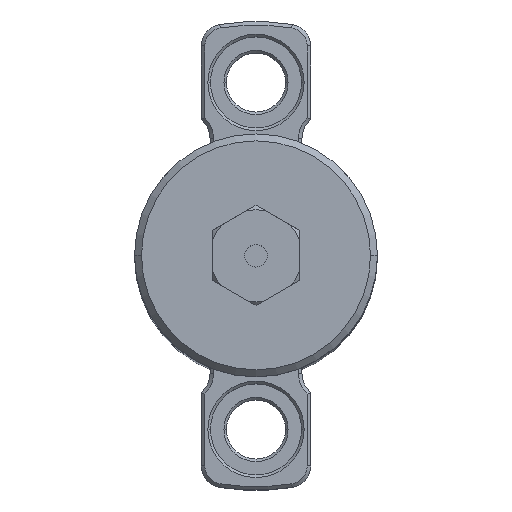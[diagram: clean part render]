
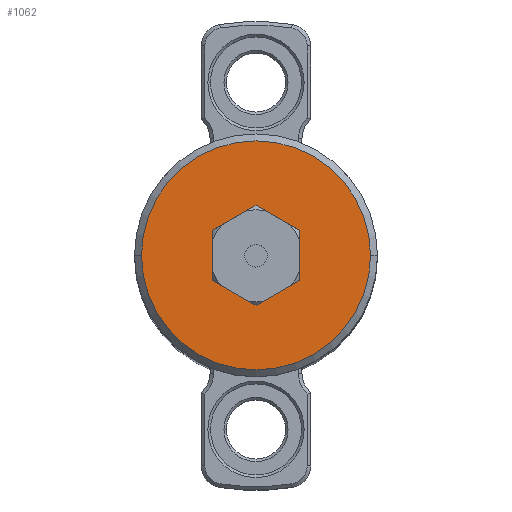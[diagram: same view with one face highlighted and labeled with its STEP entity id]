
A CAD part, top view. The second image highlights one B-rep face of the part: STEP entity #1062.
In plain terms, the highlighted planar face has unit normal (0, 0, 1).
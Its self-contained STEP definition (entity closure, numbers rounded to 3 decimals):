
#423 = EDGE_CURVE ( 'NONE', #3412, #13151, #9045, .T. ) ;
#539 = EDGE_CURVE ( 'NONE', #13151, #17282, #15963, .T. ) ;
#1062 = ADVANCED_FACE ( 'NONE', ( #14001, #17252 ), #5752, .F. ) ;
#1223 = CARTESIAN_POINT ( 'NONE',  ( 5., -2.887, 0. ) ) ;
#1614 = CARTESIAN_POINT ( 'NONE',  ( 0., 13.2, 0. ) ) ;
#2171 = EDGE_CURVE ( 'NONE', #14878, #3412, #9720, .T. ) ;
#2689 = VERTEX_POINT ( 'NONE', #11617 ) ;
#3010 = CARTESIAN_POINT ( 'NONE',  ( 0., 5.774, 0. ) ) ;
#3412 = VERTEX_POINT ( 'NONE', #5352 ) ;
#3417 = EDGE_CURVE ( 'NONE', #4473, #3817, #5812, .T. ) ;
#3445 = EDGE_CURVE ( 'NONE', #17282, #2689, #12715, .T. ) ;
#3617 = DIRECTION ( 'NONE',  ( -0.866, -0.5, 0. ) ) ;
#3817 = VERTEX_POINT ( 'NONE', #11787 ) ;
#3914 = ORIENTED_EDGE ( 'NONE', *, *, #539, .F. ) ;
#4008 = DIRECTION ( 'NONE',  ( 0., 0., 1. ) ) ;
#4410 = DIRECTION ( 'NONE',  ( 0., 0., -1. ) ) ;
#4473 = VERTEX_POINT ( 'NONE', #8460 ) ;
#5214 = CARTESIAN_POINT ( 'NONE',  ( 0., -5.774, 0. ) ) ;
#5352 = CARTESIAN_POINT ( 'NONE',  ( -5., -2.887, 0. ) ) ;
#5373 = VECTOR ( 'NONE', #10232, 1000. ) ;
#5414 = DIRECTION ( 'NONE',  ( 0., 1., 0. ) ) ;
#5752 = PLANE ( 'NONE',  #16450 ) ;
#5797 = DIRECTION ( 'NONE',  ( 0., 0., 1. ) ) ;
#5812 = CIRCLE ( 'NONE', #15894, 13.2 ) ;
#6323 = EDGE_CURVE ( 'NONE', #2689, #10520, #10078, .T. ) ;
#6342 = EDGE_LOOP ( 'NONE', ( #13270, #10074 ) ) ;
#7516 = DIRECTION ( 'NONE',  ( 0., -1., 0. ) ) ;
#8460 = CARTESIAN_POINT ( 'NONE',  ( -13.2, 0., 0. ) ) ;
#9045 = LINE ( 'NONE', #10169, #5373 ) ;
#9720 = LINE ( 'NONE', #14404, #13387 ) ;
#10074 = ORIENTED_EDGE ( 'NONE', *, *, #15409, .T. ) ;
#10078 = LINE ( 'NONE', #12909, #12893 ) ;
#10169 = CARTESIAN_POINT ( 'NONE',  ( -5., -2.887, 0. ) ) ;
#10232 = DIRECTION ( 'NONE',  ( 0.866, -0.5, 0. ) ) ;
#10520 = VERTEX_POINT ( 'NONE', #3010 ) ;
#11076 = ORIENTED_EDGE ( 'NONE', *, *, #2171, .F. ) ;
#11617 = CARTESIAN_POINT ( 'NONE',  ( 5., 2.887, 0. ) ) ;
#11714 = ORIENTED_EDGE ( 'NONE', *, *, #3445, .F. ) ;
#11787 = CARTESIAN_POINT ( 'NONE',  ( 13.2, 0., 0. ) ) ;
#11850 = VECTOR ( 'NONE', #17585, 1000. ) ;
#12284 = CARTESIAN_POINT ( 'NONE',  ( 0., 0., 0. ) ) ;
#12715 = LINE ( 'NONE', #1223, #16392 ) ;
#12893 = VECTOR ( 'NONE', #15631, 1000. ) ;
#12909 = CARTESIAN_POINT ( 'NONE',  ( 5., 2.887, 0. ) ) ;
#13151 = VERTEX_POINT ( 'NONE', #17640 ) ;
#13270 = ORIENTED_EDGE ( 'NONE', *, *, #3417, .T. ) ;
#13387 = VECTOR ( 'NONE', #7516, 1000. ) ;
#13675 = DIRECTION ( 'NONE',  ( 1., 0., 0. ) ) ;
#13690 = VECTOR ( 'NONE', #3617, 1000. ) ;
#14001 = FACE_BOUND ( 'NONE', #17461, .T. ) ;
#14063 = CARTESIAN_POINT ( 'NONE',  ( 0., 0., 0. ) ) ;
#14081 = DIRECTION ( 'NONE',  ( -1., 0., 0. ) ) ;
#14404 = CARTESIAN_POINT ( 'NONE',  ( -5., 2.887, 0. ) ) ;
#14767 = EDGE_CURVE ( 'NONE', #10520, #14878, #17371, .T. ) ;
#14878 = VERTEX_POINT ( 'NONE', #16299 ) ;
#15121 = ORIENTED_EDGE ( 'NONE', *, *, #6323, .F. ) ;
#15409 = EDGE_CURVE ( 'NONE', #3817, #4473, #17773, .T. ) ;
#15443 = DIRECTION ( 'NONE',  ( 1., 0., 0. ) ) ;
#15631 = DIRECTION ( 'NONE',  ( -0.866, 0.5, 0. ) ) ;
#15894 = AXIS2_PLACEMENT_3D ( 'NONE', #12284, #4008, #13675 ) ;
#15963 = LINE ( 'NONE', #5214, #11850 ) ;
#16065 = CARTESIAN_POINT ( 'NONE',  ( 0., 5.774, 0. ) ) ;
#16299 = CARTESIAN_POINT ( 'NONE',  ( -5., 2.887, 0. ) ) ;
#16300 = CARTESIAN_POINT ( 'NONE',  ( 5., -2.887, 0. ) ) ;
#16392 = VECTOR ( 'NONE', #5414, 1000. ) ;
#16450 = AXIS2_PLACEMENT_3D ( 'NONE', #1614, #4410, #14081 ) ;
#16854 = ORIENTED_EDGE ( 'NONE', *, *, #14767, .F. ) ;
#17252 = FACE_OUTER_BOUND ( 'NONE', #6342, .T. ) ;
#17282 = VERTEX_POINT ( 'NONE', #16300 ) ;
#17371 = LINE ( 'NONE', #16065, #13690 ) ;
#17461 = EDGE_LOOP ( 'NONE', ( #16854, #15121, #11714, #3914, #17537, #11076 ) ) ;
#17537 = ORIENTED_EDGE ( 'NONE', *, *, #423, .F. ) ;
#17585 = DIRECTION ( 'NONE',  ( 0.866, 0.5, 0. ) ) ;
#17640 = CARTESIAN_POINT ( 'NONE',  ( 0., -5.774, 0. ) ) ;
#17773 = CIRCLE ( 'NONE', #17895, 13.2 ) ;
#17895 = AXIS2_PLACEMENT_3D ( 'NONE', #14063, #5797, #15443 ) ;
